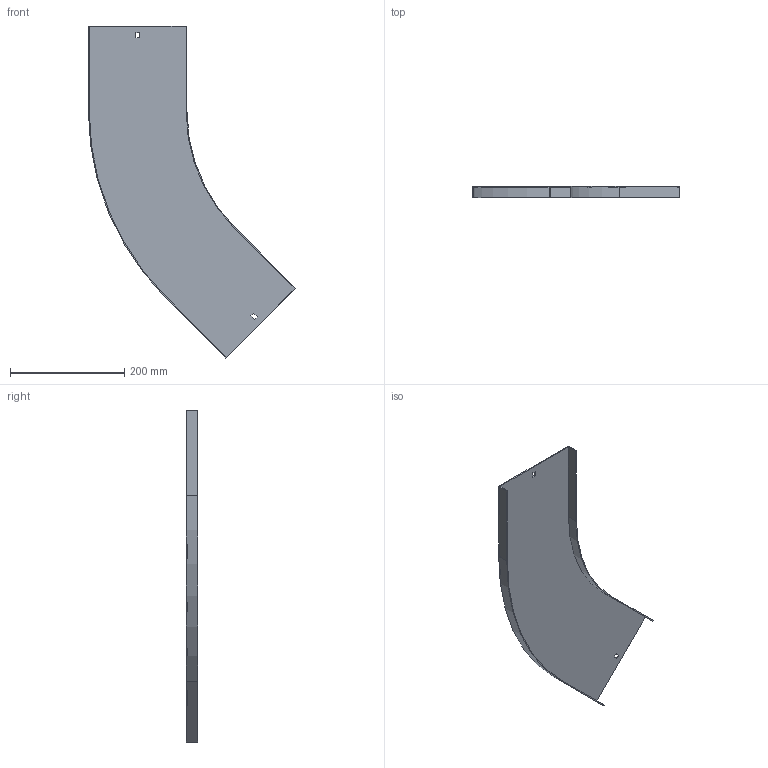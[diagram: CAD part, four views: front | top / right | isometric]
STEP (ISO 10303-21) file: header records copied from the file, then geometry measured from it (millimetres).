
FILE_DESCRIPTION (( 'STEP AP214' ), '1' );
FILE_NAME ('11N3P150.step', '2025-02-21T13:34:49', ( '' ), ( '' ), 'SwSTEP 2.0', 'SolidWorks 2023', '' );
FILE_SCHEMA (( 'AUTOMOTIVE_DESIGN' ));
Length unit declared in the file: millimetre
Products named in the file (1): 11N3P150
Bounding box: 363.57 x 20 x 582.4 mm (x, y, z)
Volume: 187099.7 mm3; surface area: 251972.8 mm2
Topology: 1 solids, 1 shells, 26 faces, 72 edges, 48 vertices
Faces by surface type: plane 22, cylinder 4
Entity records: 855 total; most frequent: CARTESIAN_POINT 147, ORIENTED_EDGE 144, DIRECTION 134, EDGE_CURVE 72, LINE 64, VECTOR 64, VERTEX_POINT 48, AXIS2_PLACEMENT_3D 35
